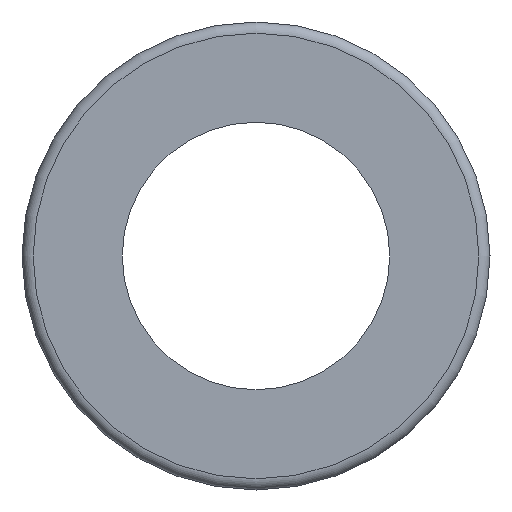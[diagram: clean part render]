
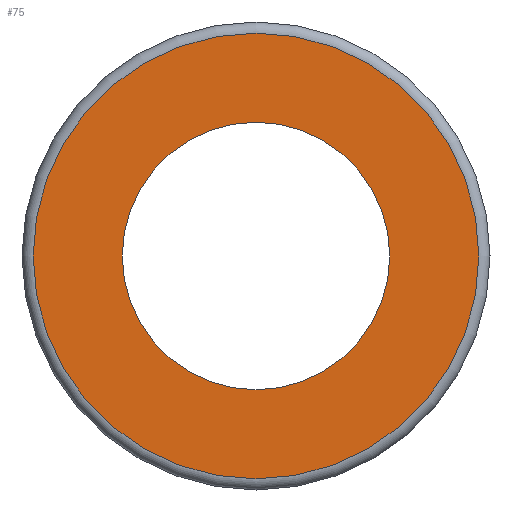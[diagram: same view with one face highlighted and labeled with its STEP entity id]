
A CAD part, left-side view. The second image highlights one B-rep face of the part: STEP entity #75.
In plain terms, the highlighted planar face has unit normal (-1, 0, 0).
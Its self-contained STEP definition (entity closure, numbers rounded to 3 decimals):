
#75=ADVANCED_FACE('',(#90,#91),#92,.T.);
#90=FACE_OUTER_BOUND('',#132,.T.);
#91=FACE_BOUND('',#133,.T.);
#92=PLANE('',#134);
#132=EDGE_LOOP('',(#174));
#133=EDGE_LOOP('',(#175));
#134=AXIS2_PLACEMENT_3D('',#176,#177,#178);
#174=ORIENTED_EDGE('',*,*,#244,.F.);
#175=ORIENTED_EDGE('',*,*,#245,.T.);
#176=CARTESIAN_POINT('',(43.601,8.0,0.0));
#177=DIRECTION('',(-1.0,0.0,0.0));
#178=DIRECTION('',(0.0,0.0,1.0));
#244=EDGE_CURVE('',#258,#258,#259,.T.);
#245=EDGE_CURVE('',#260,#260,#261,.T.);
#258=VERTEX_POINT('',#286);
#259=CIRCLE('',#287,10.0);
#260=VERTEX_POINT('',#288);
#261=CIRCLE('',#289,6.0);
#286=CARTESIAN_POINT('',(43.601,10.0,0.0));
#287=AXIS2_PLACEMENT_3D('',#314,#315,#316);
#288=CARTESIAN_POINT('',(43.601,6.0,0.0));
#289=AXIS2_PLACEMENT_3D('',#317,#318,#319);
#314=CARTESIAN_POINT('',(43.601,0.0,0.0));
#315=DIRECTION('',(1.0,0.0,0.0));
#316=DIRECTION('',(0.0,1.0,0.0));
#317=CARTESIAN_POINT('',(43.601,0.0,0.0));
#318=DIRECTION('',(1.0,0.0,0.0));
#319=DIRECTION('',(0.0,1.0,0.0));
